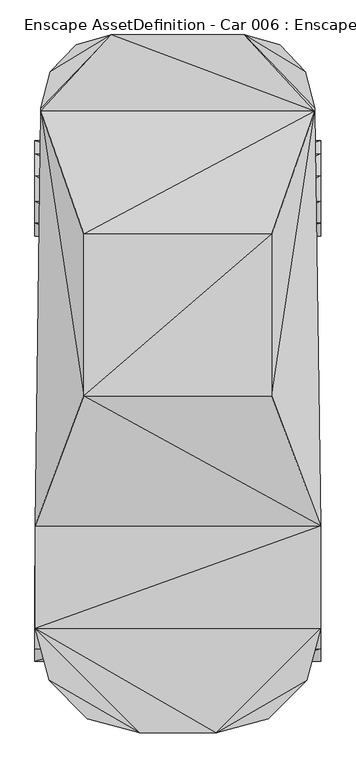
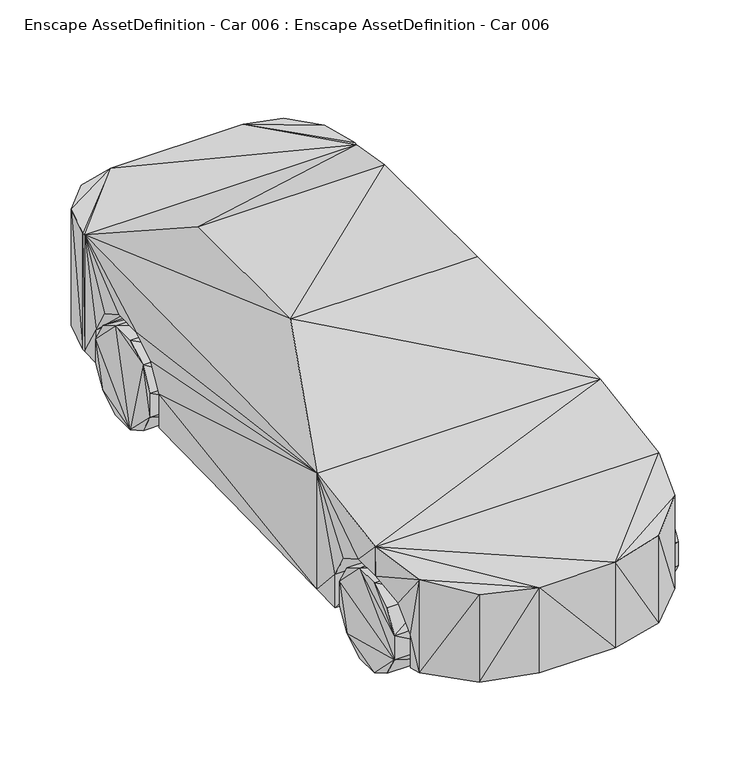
"""IFC4 building model written with IfcOpenShell, lengths in millimetres: geographic element geometry, Enscape AssetDefinition - Car 006 : Enscape AssetDefinition - Car 006."""

from ifc_helpers import new_model, si_unit, origin, place, context, project, spatial, faceted_brep, source, transform, mapped, element, save


def enscape_assetdefinition_car_006_enscape_assetdefinition_car_de8ea857(model_context):
    return source(origin(), model_context, "Body", "Brep", [
        faceted_brep([(919.5351005, 1197.8906393, 223.9695638), (919.5351005, 1422.7268696, -0.8664841), (919.5351005, 1729.8585176, 81.4293399), (919.5351005, 1812.1541739, 223.9696383), (623.0729818, 1812.1541739, 223.9696383), (919.5351005, 1587.318182, -0.8663841), (623.0729818, 1587.318182, -0.8663841), (919.5351005, 1812.1539354, 388.5609806), (623.0729818, 1729.8585176, 81.4293176), (623.0729818, 1812.1539354, 388.5609806), (919.5351005, 1729.8582792, 531.1012268), (623.0729818, 1729.8582792, 531.1012268), (919.5351005, 1587.3180628, 613.396883), (623.0729818, 1587.3180628, 613.396883), (623.0729818, 1422.7268696, -0.8664841), (623.0729818, 1280.1864147, 531.1012268), (919.5351005, 1280.1865339, 81.4290717), (623.0729818, 1280.1865339, 81.4290792), (919.5351005, 1197.8906393, 388.560921), (623.0729818, 1197.8906393, 223.9695638), (919.5351005, 1280.1864147, 531.1012268), (623.0729818, 1197.8906393, 388.560921), (919.5351005, 1422.7267504, 613.396883), (623.0729818, 1422.7267504, 613.396883)], [[[0, 1, 2]], [[3, 2, 4]], [[5, 6, 2]], [[2, 3, 7]], [[1, 5, 2]], [[0, 2, 7]], [[2, 8, 4]], [[6, 8, 2]], [[9, 4, 8]], [[3, 4, 9]], [[7, 3, 9]], [[10, 7, 11]], [[7, 10, 12]], [[0, 7, 12]], [[7, 9, 11]], [[13, 11, 9]], [[9, 8, 14]], [[14, 13, 9]], [[8, 6, 14]], [[14, 15, 13]], [[1, 16, 14]], [[15, 14, 17]], [[1, 14, 6]], [[16, 17, 14]], [[16, 0, 17]], [[0, 16, 1]], [[5, 1, 6]], [[0, 18, 19]], [[20, 18, 0]], [[12, 20, 0]], [[0, 19, 17]], [[15, 17, 19]], [[19, 21, 15]], [[18, 21, 19]], [[18, 20, 21]], [[20, 22, 15]], [[12, 22, 20]], [[20, 15, 21]], [[22, 12, 23]], [[12, 10, 13]], [[12, 13, 23]], [[22, 23, 15]], [[15, 23, 13]], [[10, 11, 13]]]),
        faceted_brep([(919.5351601, -1540.6147242, 223.9696085), (919.5351601, -1315.7786131, -0.8664241), (919.5351601, -1008.6470842, 81.4293772), (919.5351601, -1151.1873007, -0.8663542), (623.0730414, -1008.6470842, 81.4293548), (919.5351601, -926.3513088, 223.9696532), (623.0730414, -926.3513088, 223.9696383), (919.5351601, -926.351428, 388.5610104), (623.0730414, -1151.1873007, -0.8663741), (623.0730414, -1315.7786131, -0.8664441), (919.5351601, -1458.319068, 81.4291462), (623.0730414, -1458.319068, 81.4291313), (623.0730414, -1540.6147242, 223.9695936), (623.0730414, -926.351428, 388.5609806), (919.5351005, -1540.6147242, 388.5610998), (623.0729818, -1540.6147242, 388.5610402), (919.5351005, -1458.3193064, 531.101346), (919.5351005, -1151.1875391, 613.3970618), (919.5351005, -1315.7788515, 613.3970618), (919.5351005, -1008.6470842, 531.101346), (623.0729818, -1008.6470842, 531.101346), (623.0729818, -1315.7788515, 613.3970022), (623.0729818, -1151.1875391, 613.3970022), (623.0729818, -1458.3193064, 531.1012864)], [[[0, 1, 2]], [[2, 3, 4]], [[5, 2, 6]], [[2, 5, 7]], [[1, 3, 2]], [[0, 2, 7]], [[2, 4, 6]], [[3, 1, 8]], [[3, 8, 4]], [[4, 8, 9]], [[1, 9, 8]], [[1, 10, 9]], [[9, 11, 12]], [[4, 9, 12]], [[10, 11, 9]], [[10, 0, 11]], [[0, 10, 1]], [[0, 12, 11]], [[4, 12, 13]], [[0, 14, 12]], [[13, 12, 15]], [[14, 15, 12]], [[14, 16, 15]], [[17, 14, 0]], [[18, 16, 14]], [[18, 14, 17]], [[0, 7, 17]], [[7, 13, 19]], [[7, 5, 13]], [[7, 19, 17]], [[19, 20, 17]], [[13, 20, 19]], [[18, 17, 21]], [[17, 22, 21]], [[20, 22, 17]], [[16, 18, 23]], [[18, 21, 23]], [[16, 23, 15]], [[21, 15, 23]], [[15, 21, 22]], [[22, 20, 13]], [[22, 13, 15]], [[13, 6, 4]], [[5, 6, 13]]]),
        faceted_brep([(-919.5351005, 1422.7268696, -0.8664841), (-919.5351005, 1280.1864147, 531.1012268), (-919.5351005, 1587.3180628, 613.396883), (-919.5351005, 1422.7267504, 613.396883), (-623.0729818, 1422.7267504, 613.396883), (-623.0729818, 1587.3180628, 613.396883), (-919.5351005, 1729.8582792, 531.1012268), (-919.5351005, 1812.1539354, 388.5609806), (-623.0729818, 1280.1864147, 531.1012268), (-623.0729818, 1197.8906393, 388.560921), (-623.0729818, 1197.8906393, 223.9695638), (-623.0729818, 1422.7268696, -0.8664841), (-919.5351005, 1197.8906393, 223.9695638), (-919.5351005, 1197.8906393, 388.560921), (-623.0729818, 1280.1865339, 81.4290792), (-919.5351005, 1280.1865339, 81.4290717), (-623.0729818, 1587.318182, -0.8663841), (-919.5351005, 1587.318182, -0.8663841), (-919.5351005, 1729.8585176, 81.4293399), (-623.0729818, 1812.1539354, 388.5609806), (-623.0729818, 1729.8585176, 81.4293176), (-623.0729818, 1729.8582792, 531.1012268), (-919.5351005, 1812.1541739, 223.9696383), (-623.0729818, 1812.1541739, 223.9696383)], [[[0, 1, 2]], [[3, 4, 2]], [[2, 5, 6]], [[2, 6, 7]], [[1, 3, 2]], [[0, 2, 7]], [[4, 5, 2]], [[5, 4, 8]], [[8, 4, 3]], [[1, 8, 3]], [[8, 9, 10]], [[11, 8, 10]], [[11, 5, 8]], [[9, 8, 1]], [[12, 10, 13]], [[10, 14, 11]], [[10, 9, 13]], [[14, 10, 12]], [[13, 9, 1]], [[12, 13, 1]], [[15, 14, 12]], [[0, 15, 12]], [[0, 12, 1]], [[11, 14, 15]], [[0, 11, 15]], [[5, 11, 16]], [[16, 11, 0]], [[17, 16, 0]], [[18, 17, 0]], [[7, 18, 0]], [[16, 17, 18]], [[16, 19, 5]], [[20, 16, 18]], [[19, 16, 20]], [[19, 21, 5]], [[5, 21, 6]], [[7, 19, 22]], [[20, 23, 19]], [[21, 19, 7]], [[19, 23, 22]], [[6, 21, 7]], [[7, 22, 18]], [[22, 23, 18]], [[23, 20, 18]]]),
        faceted_brep([(-919.5351601, -1540.6147242, 223.9696085), (-919.5351005, -1151.1875391, 613.3970618), (-919.5351601, -926.351428, 388.5610104), (-623.0730414, -926.351428, 388.5609806), (-919.5351601, -926.3513088, 223.9696532), (-919.5351601, -1008.6470842, 81.4293772), (-919.5351005, -1008.6470842, 531.101346), (-623.0730414, -926.3513088, 223.9696383), (-623.0729818, -1008.6470842, 531.101346), (-623.0729818, -1151.1875391, 613.3970022), (-623.0730414, -1008.6470842, 81.4293548), (-623.0729818, -1315.7788515, 613.3970022), (-623.0729818, -1540.6147242, 388.5610402), (-623.0729818, -1458.3193064, 531.1012864), (-919.5351005, -1540.6147242, 388.5610998), (-623.0730414, -1540.6147242, 223.9695936), (-919.5351005, -1315.7788515, 613.3970618), (-919.5351005, -1458.3193064, 531.101346), (-623.0730414, -1315.7786131, -0.8664441), (-623.0730414, -1458.319068, 81.4291313), (-919.5351601, -1458.319068, 81.4291462), (-919.5351601, -1315.7786131, -0.8664241), (-623.0730414, -1151.1873007, -0.8663741), (-919.5351601, -1151.1873007, -0.8663542)], [[[0, 1, 2]], [[2, 3, 4]], [[2, 4, 5]], [[1, 6, 2]], [[5, 0, 2]], [[3, 2, 6]], [[4, 7, 5]], [[3, 7, 4]], [[8, 3, 6]], [[3, 8, 9]], [[10, 7, 3]], [[10, 3, 9]], [[8, 6, 1]], [[9, 8, 1]], [[11, 12, 9]], [[10, 9, 12]], [[11, 9, 1]], [[12, 13, 14]], [[10, 12, 15]], [[11, 13, 12]], [[15, 12, 14]], [[16, 11, 1]], [[13, 11, 16]], [[17, 13, 16]], [[13, 17, 14]], [[16, 14, 17]], [[14, 16, 1]], [[0, 15, 14]], [[1, 0, 14]], [[15, 18, 10]], [[15, 19, 18]], [[19, 15, 0]], [[20, 19, 0]], [[21, 20, 0]], [[5, 21, 0]], [[18, 19, 20]], [[21, 18, 20]], [[18, 22, 10]], [[22, 18, 21]], [[23, 22, 21]], [[5, 23, 21]], [[5, 10, 23]], [[7, 10, 5]], [[10, 22, 23]]]),
        faceted_brep([(579.2689323, 1143.9720392, 174.8623103), (579.2689919, 1866.0725355, 174.8623103), (579.2689323, 1866.0725355, 403.0084312), (883.1130266, 1866.0726547, 174.8623103), (579.2689323, 1143.9720392, 403.0083716), (579.2689323, 1240.7152653, 570.5724359), (579.2689323, 1408.2792997, 667.3154831), (579.2689323, 1601.7653942, 667.3154831), (579.2689323, 1769.3294287, 570.5724359), (883.1131458, 1866.0725355, 403.0084312), (881.2382221, 2001.7693043, 174.8623103), (884.4497204, 1769.3294287, 570.5724359), (881.2382221, 2001.7693043, 969.8676467), (886.7648244, 1601.7655134, 667.3154831), (889.4380927, 1408.2792997, 667.3154831), (918.1218147, -667.8000093, 969.8676467), (891.7531967, 1240.7152653, 570.5724359), (893.0897713, 1143.9720392, 403.0083716), (893.0897713, 1143.9720392, 174.8623103), (918.1218147, -667.8000093, 174.8623103), (579.2689919, -872.4327683, 174.8623103), (-579.2689323, 1143.9720392, 174.8623103), (918.1218147, -872.4327087, 174.8623103), (918.1218743, -872.4328876, 403.008461), (579.2689919, -872.4328876, 403.0084312), (918.1218147, -969.1759348, 570.5724955), (579.2689323, -1136.7402077, 667.3156023), (579.2689323, -1594.533205, 403.0084908), (579.2689323, -969.1759348, 570.5724955), (918.1218147, -1136.7402077, 667.3157215), (579.2689323, -1330.2263021, 667.3156023), (918.1218147, -1326.220274, 667.3157215), (918.1218147, -1326.2201548, 865.4494882), (917.0483351, -1330.2263021, 667.3157215), (872.1495867, -1497.7904558, 570.5724359), (579.2689323, -1497.7904558, 570.5724359), (828.0479312, -1662.3802185, 812.1382594), (-918.1218147, -1326.2201548, 865.4494882), (245.801419, -1998.5405207, 758.8269114), (846.2274671, -1594.5330858, 403.0084908), (581.9615722, -1908.4665775, 773.1116414), (828.0479908, -1662.3800993, 174.8623103), (846.2275267, -1594.533205, 174.8623103), (579.2689919, -1594.533205, 174.8623252), (581.9616318, -1908.4664583, 174.8623103), (245.801419, -1998.5405207, 174.8623103), (-579.2689919, -1594.533205, 174.8623103), (-579.2689919, -872.4327683, 174.8623103), (-245.801419, -1998.5405207, 174.8623103), (-245.801419, -1998.5405207, 758.8269114), (-581.9615722, -1908.4665775, 174.8623103), (-581.9616318, -1908.4664583, 773.1116414), (-828.0479908, -1662.3800993, 812.1382594), (-828.0479312, -1662.3802185, 174.8623103), (-917.0483351, -1330.2263021, 667.3157215), (-872.1496463, -1497.7904558, 570.5724955), (-846.2275267, -1594.533205, 403.0085206), (-846.2275267, -1594.533205, 174.8623103), (-579.2689323, -1497.7904558, 570.5724359), (-579.2689323, -1594.533205, 403.0084908), (-579.2689323, -1330.2263021, 667.3156023), (-918.1218147, -1326.220274, 667.3157215), (-579.2689323, -1136.7402077, 667.3156023), (-579.2689919, -872.4328876, 403.0084312), (-918.1218743, -872.4328876, 403.008461), (-918.1218147, -969.1759348, 570.5724955), (-918.1218147, -872.4327087, 174.8623103), (-579.2689323, -969.1759348, 570.5724955), (-918.1218147, -1136.7402077, 667.3157215), (-918.1218147, -667.8000093, 969.8676467), (-918.1218147, -667.8000093, 174.8623103), (-893.0897713, 1143.9720392, 403.0083716), (-893.0897713, 1143.9722776, 174.8623103), (-891.7531967, 1240.7152653, 570.5724359), (-579.2689323, 1143.9720392, 403.0083716), (-579.2689323, 1866.0725355, 403.0084312), (-579.2689919, 1866.0725355, 174.8623103), (-579.2689323, 1240.7152653, 570.5724359), (-889.4380927, 1408.2792997, 667.3154831), (-579.2689323, 1408.2792997, 667.3154831), (-886.7647648, 1601.7653942, 667.3154831), (-881.2382221, 2001.7693043, 969.8676467), (-604.4095159, 169.1815406, 1410.038352), (604.4095159, 169.1815406, 1410.038352), (604.4095159, 1210.2651596, 1410.038352), (-604.4095159, 1210.2651596, 1410.038352), (881.2382221, 2022.1791267, 174.8623103), (428.888768, 2493.4613705, 969.8676467), (881.2382221, 2022.1791267, 969.8676467), (-428.888768, 2493.4613705, 969.8676467), (820.6348419, 2257.8203678, 174.8623103), (820.6348419, 2257.8203678, 969.8676467), (655.0635099, 2430.321455, 969.8676467), (655.0634503, 2430.321455, 174.8623103), (428.888768, 2493.4613705, 174.8623103), (-428.888768, 2493.4613705, 174.8623103), (-655.0635099, 2430.321455, 174.8623103), (-820.6348419, 2257.8203678, 174.8623103), (-881.2382221, 2022.1791267, 174.8623103), (-883.1130266, 1866.0730124, 174.8623103), (-881.2382221, 2001.7693043, 174.8623103), (-820.6348419, 2257.8203678, 969.8676467), (-655.0634503, 2430.321455, 969.8676467), (-881.2382221, 2022.1791267, 969.8676467), (-883.1131458, 1866.0726547, 403.0084312), (-884.4496608, 1769.3293095, 570.5724359), (-579.2689323, 1769.3294287, 570.5724359), (-579.2689323, 1601.7653942, 667.3154831)], [[[0, 1, 2]], [[1, 3, 2]], [[2, 4, 0]], [[2, 5, 4]], [[6, 5, 2]], [[2, 7, 6]], [[2, 8, 7]], [[3, 9, 2]], [[8, 2, 9]], [[9, 3, 10]], [[10, 3, 1]], [[11, 8, 9]], [[9, 10, 12]], [[11, 9, 12]], [[7, 8, 11]], [[13, 7, 11]], [[6, 7, 13]], [[14, 6, 13]], [[5, 6, 14]], [[13, 11, 12]], [[14, 13, 12]], [[14, 12, 15]], [[16, 5, 14]], [[15, 16, 14]], [[17, 4, 16]], [[15, 17, 16]], [[4, 5, 16]], [[17, 18, 4]], [[18, 0, 4]], [[17, 19, 18]], [[17, 15, 19]], [[0, 18, 19]], [[20, 0, 19]], [[21, 0, 20]], [[21, 1, 0]], [[20, 19, 22]], [[23, 22, 19]], [[15, 23, 19]], [[20, 22, 24]], [[22, 23, 24]], [[23, 25, 24]], [[15, 25, 23]], [[24, 26, 27]], [[24, 28, 26]], [[27, 20, 24]], [[25, 28, 24]], [[15, 29, 25]], [[25, 29, 28]], [[29, 26, 28]], [[30, 27, 26]], [[26, 29, 31]], [[31, 30, 26]], [[29, 32, 31]], [[29, 15, 32]], [[31, 33, 30]], [[33, 31, 32]], [[33, 34, 30]], [[30, 35, 27]], [[34, 35, 30]], [[33, 32, 36]], [[34, 33, 36]], [[37, 32, 15]], [[38, 36, 32]], [[38, 32, 37]], [[36, 39, 34]], [[36, 40, 41]], [[38, 40, 36]], [[39, 36, 41]], [[34, 39, 35]], [[39, 27, 35]], [[42, 43, 39]], [[39, 41, 42]], [[43, 27, 39]], [[40, 44, 41]], [[43, 42, 41]], [[43, 41, 44]], [[40, 38, 44]], [[38, 45, 44]], [[43, 44, 45]], [[43, 45, 46]], [[20, 27, 43]], [[47, 20, 43]], [[43, 46, 47]], [[48, 45, 49]], [[45, 38, 49]], [[46, 45, 48]], [[50, 48, 49]], [[46, 48, 50]], [[51, 50, 49]], [[37, 49, 38]], [[52, 51, 49]], [[52, 49, 37]], [[53, 50, 51]], [[50, 53, 46]], [[52, 53, 51]], [[54, 55, 52]], [[56, 53, 52]], [[54, 52, 37]], [[55, 56, 52]], [[56, 57, 53]], [[53, 57, 46]], [[55, 58, 56]], [[58, 59, 56]], [[57, 56, 59]], [[54, 60, 55]], [[60, 58, 55]], [[54, 37, 61]], [[60, 54, 61]], [[60, 59, 58]], [[59, 60, 62]], [[61, 62, 60]], [[62, 63, 59]], [[46, 57, 59]], [[63, 46, 59]], [[63, 47, 46]], [[64, 63, 65]], [[64, 66, 63]], [[62, 67, 63]], [[63, 67, 65]], [[66, 47, 63]], [[61, 68, 62]], [[67, 62, 68]], [[68, 61, 37]], [[65, 67, 68]], [[68, 37, 69]], [[65, 68, 69]], [[64, 65, 69]], [[64, 70, 66]], [[64, 69, 70]], [[47, 66, 70]], [[71, 70, 69]], [[71, 72, 70]], [[70, 72, 21]], [[47, 70, 21]], [[71, 73, 74]], [[69, 73, 71]], [[72, 71, 74]], [[21, 72, 74]], [[75, 21, 74]], [[75, 76, 21]], [[21, 76, 1]], [[20, 47, 21]], [[75, 74, 77]], [[73, 77, 74]], [[73, 78, 77]], [[73, 69, 78]], [[75, 77, 79]], [[78, 79, 77]], [[80, 78, 81]], [[78, 80, 79]], [[78, 69, 81]], [[69, 82, 81]], [[69, 15, 82]], [[15, 69, 37]], [[83, 84, 82]], [[84, 85, 82]], [[82, 85, 81]], [[15, 83, 82]], [[83, 15, 12]], [[84, 83, 12]], [[84, 12, 85]], [[12, 81, 85]], [[10, 86, 12]], [[87, 12, 88]], [[89, 81, 12]], [[12, 87, 89]], [[86, 88, 12]], [[88, 86, 90]], [[86, 10, 1]], [[90, 86, 1]], [[91, 87, 88]], [[91, 88, 90]], [[91, 90, 92]], [[90, 93, 92]], [[1, 93, 90]], [[1, 94, 93]], [[1, 95, 94]], [[76, 95, 1]], [[92, 93, 94]], [[87, 92, 94]], [[91, 92, 87]], [[94, 95, 87]], [[95, 96, 89]], [[95, 89, 87]], [[76, 96, 95]], [[76, 97, 96]], [[76, 98, 97]], [[76, 99, 100]], [[76, 100, 98]], [[99, 76, 75]], [[97, 101, 96]], [[96, 102, 89]], [[101, 102, 96]], [[97, 98, 101]], [[98, 100, 103]], [[98, 103, 101]], [[89, 101, 103]], [[89, 102, 101]], [[89, 103, 81]], [[100, 81, 103]], [[104, 100, 99]], [[104, 81, 100]], [[104, 99, 75]], [[105, 104, 106]], [[81, 104, 105]], [[104, 75, 106]], [[81, 105, 80]], [[80, 105, 107]], [[105, 106, 107]], [[107, 106, 75]], [[75, 79, 107]], [[80, 107, 79]]]),
    ])


if __name__ == "__main__":
    model = new_model("IFC4")
    model_context = context("Model", 3, world=origin())
    ifc_project = project(units=[si_unit("LENGTHUNIT", "METRE", prefix="MILLI")], contexts=[model_context])
    site = spatial("IfcSite", under=ifc_project)
    building = spatial("IfcBuilding", under=site)
    placement = place(None, origin())
    enscape_assetdefinition_car_006_enscape_assetdefinition_car_shape = enscape_assetdefinition_car_006_enscape_assetdefinition_car_de8ea857(model_context)
    element("IfcGeographicElement", 1, ObjectType="Enscape AssetDefinition - Car 006 : Enscape AssetDefinition - Car 006", at=placement, inside=building, context=model_context, shape_type="MappedRepresentation", body=[
        mapped(enscape_assetdefinition_car_006_enscape_assetdefinition_car_shape, transform((0.0, 0.0, 0.0), x_axis=(1.0, 0.0, 0.0), y_axis=(0.0, 1.0, 0.0), z_axis=(0.0, 0.0, 1.0))),
    ])
    save(model, "model.ifc")
